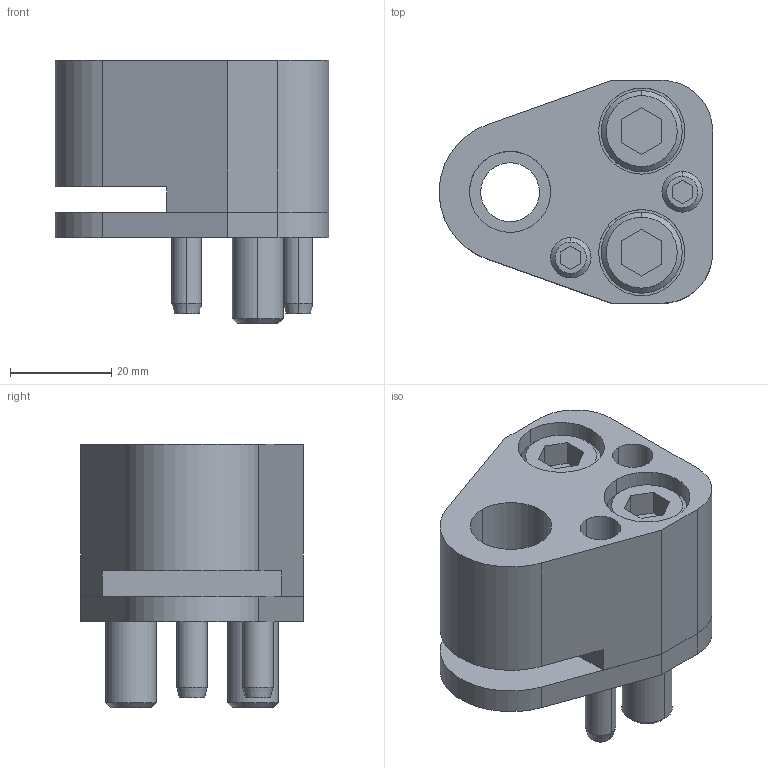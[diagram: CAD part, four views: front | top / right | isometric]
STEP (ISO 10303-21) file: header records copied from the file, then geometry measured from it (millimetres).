
FILE_DESCRIPTION(/* description */ (''),/* implementation_level */ '2;1');
FILE_NAME(/* name */ '3d_dp-fd16_02836_r00.stp',/* time_stamp */ '2011-01-10T14:15:57+09:00',/* author */ ('MISUMI'),/* organization */ (''),/* preprocessor_version */ 'ST-DEVELOPER v11',/* originating_system */ 'UGS - NX 5.0',/* authorisation */ '');
FILE_SCHEMA (('CONFIG_CONTROL_DESIGN'));
Length unit declared in the file: millimetre
Products named in the file (1): 3d_dp-fd16_02836_r00
Bounding box: 53.95 x 44 x 52 mm (x, y, z)
Volume: 56563.6 mm3; surface area: 23871.4 mm2
Topology: 8 solids, 8 shells, 154 faces, 350 edges, 225 vertices
Faces by surface type: plane 68, cylinder 60, cone 26
Entity records: 4502 total; most frequent: DIRECTION 802, CARTESIAN_POINT 789, ORIENTED_EDGE 700, EDGE_CURVE 350, AXIS2_PLACEMENT_3D 302, VERTEX_POINT 225, LINE 198, VECTOR 198
